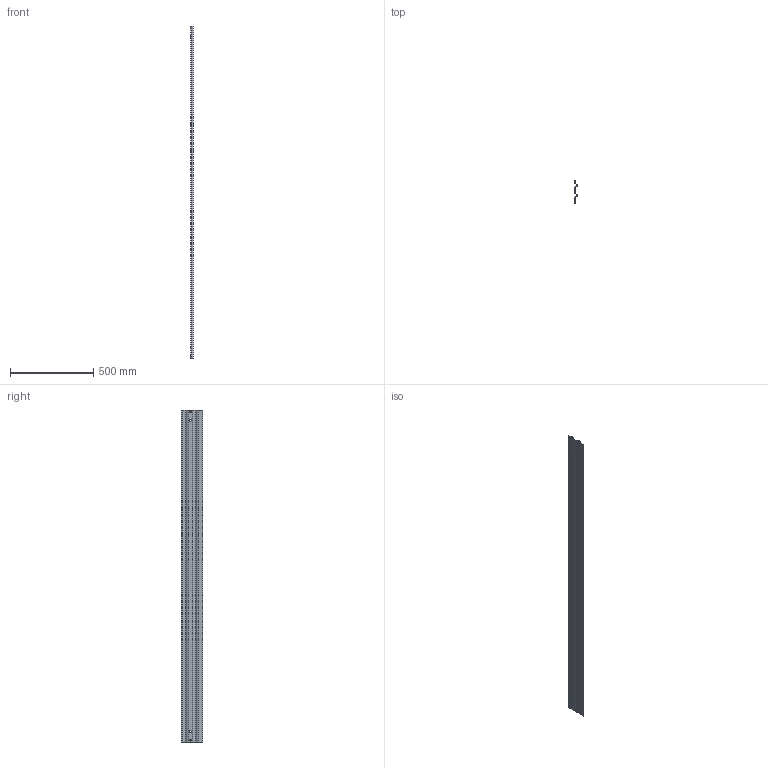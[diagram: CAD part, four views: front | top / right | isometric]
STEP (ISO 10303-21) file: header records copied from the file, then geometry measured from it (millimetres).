
FILE_DESCRIPTION((''),'2;1');
FILE_NAME('S:\Användarkataloger\AndreasA\Mina Inventor filer\Räcken\STEP\sparklist_k130_modul_2000.stp','2010-09-07T13:49:29',('AndreasA'),(''),'Autodesk Inventor 2011','Autodesk Inventor 2011','');
FILE_SCHEMA(('AUTOMOTIVE_DESIGN { 1 0 10303 214 1 1 1 1 }'));
Length unit declared in the file: millimetre
Products named in the file (1): sparklist_k130_modul_2000
Bounding box: 13.47 x 130 x 1996 mm (x, y, z)
Volume: 727958.7 mm3; surface area: 593422.9 mm2
Topology: 1 solids, 1 shells, 34 faces, 100 edges, 68 vertices
Faces by surface type: plane 18, cylinder 16
Full cylindrical faces by diameter (mm): 11 x4
Entity records: 1134 total; most frequent: DIRECTION 194, CARTESIAN_POINT 191, ORIENTED_EDGE 184, EDGE_CURVE 92, AXIS2_PLACEMENT_3D 67, VERTEX_POINT 64, VECTOR 60, LINE 60
